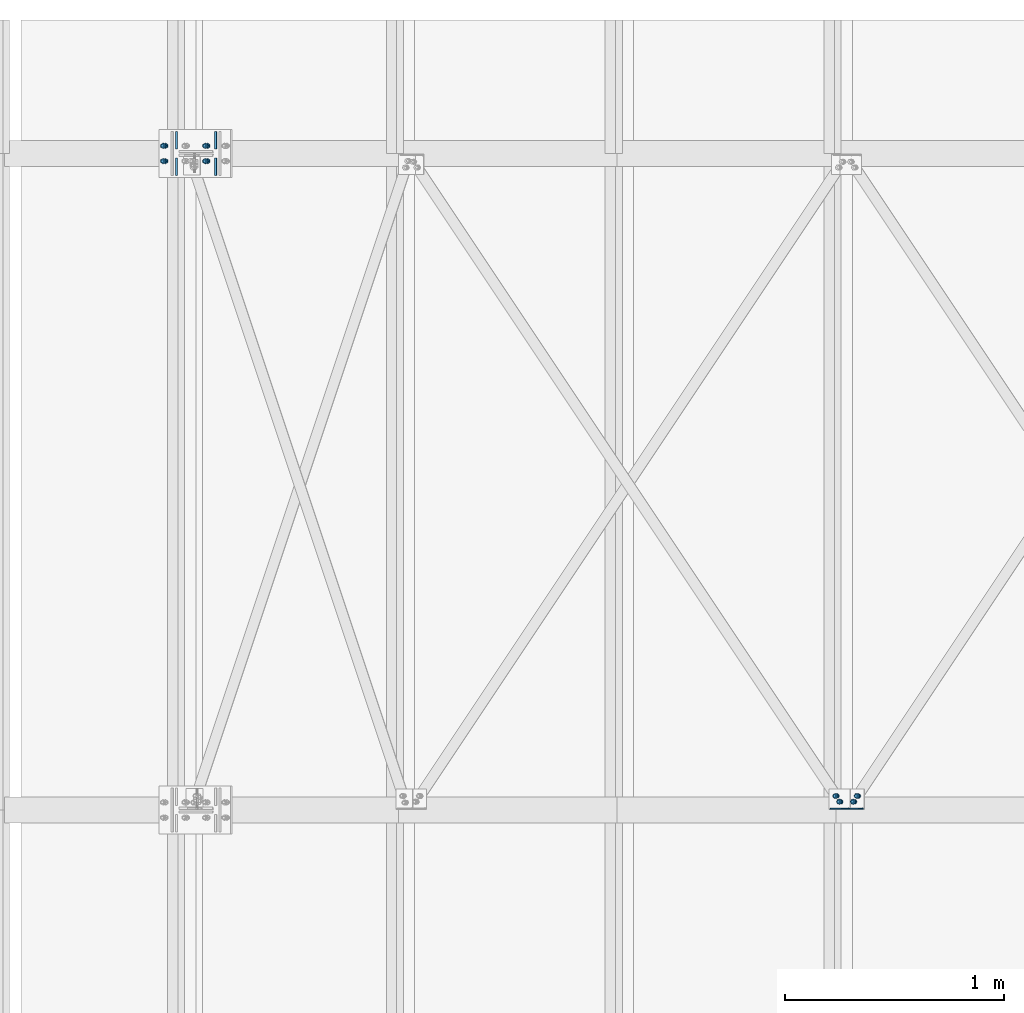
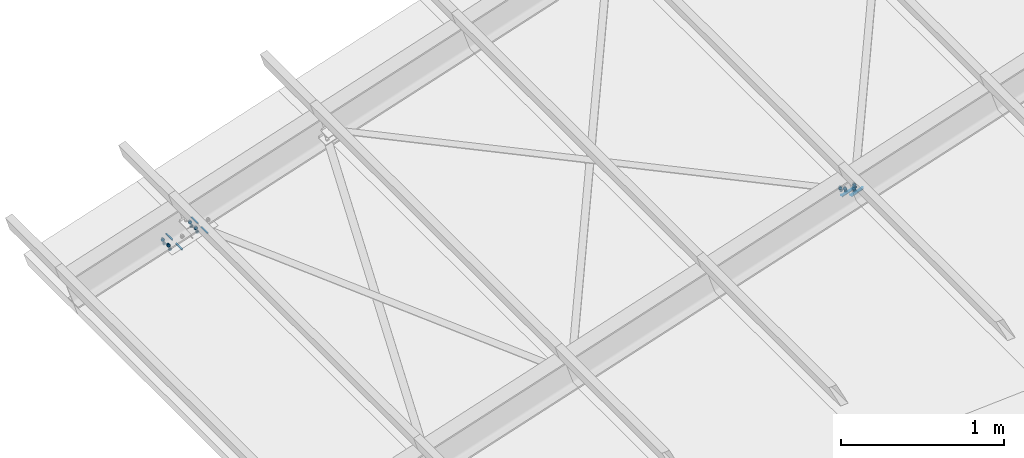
# One storey, part 37 of 53: 32 mechanical fasteners, 12 fasteners.
"""IFC4 building model written with IfcOpenShell, lengths in metres."""

from ifc_helpers import new_model, si_unit, frame, origin_with_axes, place, context, project, spatial, polyline, outline, extrude, type_object, element, save


model = new_model("IFC4")

# Units and contexts
model_context = context("Model", 3, precision=1e-05, world=origin_with_axes())
ifc_project = project(units=[si_unit("LENGTHUNIT", "METRE"), si_unit("AREAUNIT", "SQUARE_METRE"), si_unit("VOLUMEUNIT", "CUBIC_METRE"), si_unit("MASSUNIT", "GRAM", prefix="KILO"), si_unit("TIMEUNIT", "SECOND"), si_unit("PLANEANGLEUNIT", "RADIAN"), si_unit("SOLIDANGLEUNIT", "STERADIAN"), si_unit("THERMODYNAMICTEMPERATUREUNIT", "DEGREE_CELSIUS")], contexts=[model_context])

# Site, building, storey
placement_1 = place(None, origin_with_axes())
site = spatial("IfcSite", under=ifc_project, at=placement_1, Name="Italia", CompositionType="ELEMENT")
building = spatial("IfcBuilding", under=site, at=placement_1, Name="Capannone", CompositionType="ELEMENT")
storey_placement = place(None, frame((0.0, 0.0, 5.550000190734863), z_axis=(0.0, 0.0, 1.0), x_axis=(1.0, 0.0, 0.0)))
storey = spatial("IfcBuildingStorey", under=building, at=storey_placement, Name="Storey 1", CompositionType="ELEMENT", Elevation=5.550000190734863)

# Mechanical fasteners
mechanical_fastener_type_1 = type_object("IfcMechanicalFastenerType", Name="Collegamento -1087_-1057", PredefinedType="BOLT")
placement_2 = place(placement_1, origin_with_axes())
mechanical_fastener_1_placement = place(placement_2, origin_with_axes())
element("IfcMechanicalFastener", 1, at=mechanical_fastener_1_placement, inside=storey, type_object=mechanical_fastener_type_1, Name="Collegamento -1087_-1057", NominalDiameter=0.0119996, context=model_context, shape_type="SweptSolid", body=[
    extrude(outline(polyline([(0.0, 0.0), (-0.00982285, 0.00689268), (-0.0207043, 0.00183201), (-0.0217619, -0.0101209), (-0.011939, -0.017014), (-0.00105858, -0.0119534), (0.0, 0.0)])), frame((2.94909, 12.0488, 6.62161), z_axis=(0.312164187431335, 0.0, -0.95002818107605), x_axis=(0.0, 1.0, 0.0)), (0.0, 0.0, 1.0), 0.0095997),
])
mechanical_fastener_type_2 = type_object("IfcMechanicalFastenerType", Name="Collegamento -1087_-1057", PredefinedType="BOLT")
mechanical_fastener_2_placement = place(placement_2, origin_with_axes())
element("IfcMechanicalFastener", 2, at=mechanical_fastener_2_placement, inside=storey, type_object=mechanical_fastener_type_2, Name="Collegamento -1087_-1057", NominalDiameter=0.012, context=model_context, shape_type="SweptSolid", body=[
    extrude(outline(polyline([(0.0, 0.0), (-0.000204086, -0.00155258), (-0.000802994, -0.00299978), (-0.00175667, -0.0042429), (-0.00299931, -0.00519562), (-0.00444698, -0.00579548), (-0.00599957, -0.00599957), (-0.00755215, -0.00579548), (-0.00899982, -0.00519562), (-0.0102425, -0.0042429), (-0.0111961, -0.00299978), (-0.011795, -0.00155258), (-0.0119991, 0.0), (-0.011795, 0.00155354), (-0.0111961, 0.00300026), (-0.0102425, 0.0042429), (-0.00899982, 0.00519609), (-0.00755215, 0.00579548), (-0.00599957, 0.00600004), (-0.00444698, 0.00579548), (-0.00299931, 0.00519609), (-0.00175667, 0.0042429), (-0.000802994, 0.00300026), (-0.000204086, 0.00155354), (0.0, 0.0)])), frame((2.93554, 12.0439, 6.64664), z_axis=(0.312142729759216, 0.0, -0.950035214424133), x_axis=(0.0, 1.0, 0.0)), (0.0, 0.0, 1.0), 0.0279998),
])
mechanical_fastener_type_3 = type_object("IfcMechanicalFastenerType", Name="Collegamento -1087_-1057", PredefinedType="BOLT")
mechanical_fastener_3_placement = place(placement_2, origin_with_axes())
element("IfcMechanicalFastener", 3, at=mechanical_fastener_3_placement, inside=storey, type_object=mechanical_fastener_type_3, Name="Collegamento -1087_-1057", NominalDiameter=0.0119996, context=model_context, shape_type="SweptSolid", body=[
    extrude(outline(polyline([(0.0, 0.0), (-0.00982285, 0.00689316), (-0.0207043, 0.00183249), (-0.0217619, -0.0101204), (-0.011939, -0.0170135), (-0.00105858, -0.0119534), (0.0, 0.0)])), frame((2.94235, 12.0488, 6.64214), z_axis=(0.312164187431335, 0.0, -0.95002818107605), x_axis=(0.0, 1.0, 0.0)), (0.0, 0.0, 1.0), 0.0095997),
])
mechanical_fastener_type_4 = type_object("IfcMechanicalFastenerType", Name="Collegamento -1087_-1057", PredefinedType="BOLT")
mechanical_fastener_4_placement = place(placement_2, origin_with_axes())
element("IfcMechanicalFastener", 4, at=mechanical_fastener_4_placement, inside=storey, type_object=mechanical_fastener_type_4, Name="Collegamento -1087_-1057", NominalDiameter=0.024, context=model_context, shape_type="SweptSolid", body=[
    extrude(outline(polyline([(0.0, 0.0), (-0.000409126, -0.00310516), (-0.00160789, -0.00599957), (-0.00351524, -0.00848484), (-0.00600052, -0.0103922), (-0.00889397, -0.011591), (-0.0120001, -0.0119991), (-0.0151062, -0.011591), (-0.0179996, -0.0103922), (-0.0204849, -0.00848484), (-0.0223923, -0.00599957), (-0.023591, -0.00310516), (-0.0240002, 0.0), (-0.023591, 0.00310612), (-0.0223923, 0.00600052), (-0.0204849, 0.00848579), (-0.0179996, 0.0103931), (-0.0151062, 0.0115919), (-0.0120001, 0.0120001), (-0.00889397, 0.0115919), (-0.00600052, 0.0103931), (-0.00351524, 0.00848579), (-0.00160789, 0.00600052), (-0.000409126, 0.00310612), (0.0, 0.0)])), frame((2.94054, 12.0499, 6.63144), z_axis=(0.31214714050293, 0.0, -0.950033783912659), x_axis=(0.0, 1.0, 0.0)), (0.0, 0.0, 1.0), 0.00199963),
])
mechanical_fastener_type_5 = type_object("IfcMechanicalFastenerType", Name="Collegamento -1087_-1057", PredefinedType="BOLT")
mechanical_fastener_5_placement = place(placement_2, origin_with_axes())
element("IfcMechanicalFastener", 5, at=mechanical_fastener_5_placement, inside=storey, type_object=mechanical_fastener_type_5, Name="Collegamento -1087_-1057", NominalDiameter=0.0119997, context=model_context, shape_type="SweptSolid", body=[
    extrude(outline(polyline([(0.0, 0.0), (-0.00982285, 0.00689268), (-0.0207033, 0.00183249), (-0.0217619, -0.0101209), (-0.011939, -0.0170135), (-0.00105762, -0.0119534), (0.0, 0.0)])), frame((2.93163, 12.075, 6.61588), z_axis=(0.312164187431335, 0.0, -0.95002818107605), x_axis=(0.0, 1.0, 0.0)), (0.0, 0.0, 1.0), 0.0095997),
])
mechanical_fastener_type_6 = type_object("IfcMechanicalFastenerType", Name="Collegamento -1087_-1057", PredefinedType="BOLT")
mechanical_fastener_6_placement = place(placement_2, origin_with_axes())
element("IfcMechanicalFastener", 6, at=mechanical_fastener_6_placement, inside=storey, type_object=mechanical_fastener_type_6, Name="Collegamento -1087_-1057", NominalDiameter=0.012, context=model_context, shape_type="SweptSolid", body=[
    extrude(outline(polyline([(0.0, 0.0), (-0.000204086, -0.00155258), (-0.000802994, -0.00299978), (-0.00175667, -0.0042429), (-0.00299931, -0.00519562), (-0.00444698, -0.00579548), (-0.00599957, -0.00599957), (-0.00755215, -0.00579548), (-0.00899982, -0.00519562), (-0.0102425, -0.0042429), (-0.0111961, -0.00299978), (-0.011795, -0.00155258), (-0.0119991, 0.0), (-0.011795, 0.00155306), (-0.0111961, 0.00300026), (-0.0102425, 0.0042429), (-0.00899982, 0.00519609), (-0.00755215, 0.00579548), (-0.00599957, 0.00600004), (-0.00444698, 0.00579548), (-0.00299931, 0.00519609), (-0.00175667, 0.0042429), (-0.000802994, 0.00300026), (-0.000204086, 0.00155306), (0.0, 0.0)])), frame((2.91808, 12.0701, 6.6409), z_axis=(0.312142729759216, 0.0, -0.950035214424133), x_axis=(0.0, 1.0, 0.0)), (0.0, 0.0, 1.0), 0.0279998),
])
mechanical_fastener_type_7 = type_object("IfcMechanicalFastenerType", Name="Collegamento -1087_-1057", PredefinedType="BOLT")
mechanical_fastener_7_placement = place(placement_2, origin_with_axes())
element("IfcMechanicalFastener", 7, at=mechanical_fastener_7_placement, inside=storey, type_object=mechanical_fastener_type_7, Name="Collegamento -1087_-1057", NominalDiameter=0.0119997, context=model_context, shape_type="SweptSolid", body=[
    extrude(outline(polyline([(0.0, 0.0), (-0.00982285, 0.00689268), (-0.0207033, 0.00183249), (-0.0217619, -0.0101209), (-0.011939, -0.0170135), (-0.00105762, -0.0119534), (0.0, 0.0)])), frame((2.92488, 12.075, 6.6364), z_axis=(0.312164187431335, 0.0, -0.95002818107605), x_axis=(0.0, 1.0, 0.0)), (0.0, 0.0, 1.0), 0.0095997),
])
mechanical_fastener_type_8 = type_object("IfcMechanicalFastenerType", Name="Collegamento -1087_-1057", PredefinedType="BOLT")
mechanical_fastener_8_placement = place(placement_2, origin_with_axes())
element("IfcMechanicalFastener", 8, at=mechanical_fastener_8_placement, inside=storey, type_object=mechanical_fastener_type_8, Name="Collegamento -1087_-1057", NominalDiameter=0.024, context=model_context, shape_type="SweptSolid", body=[
    extrude(outline(polyline([(0.0, 0.0), (-0.000409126, -0.00310516), (-0.00160789, -0.00599957), (-0.00351524, -0.00848484), (-0.00600052, -0.0103922), (-0.00889397, -0.011591), (-0.0120001, -0.0119996), (-0.0151062, -0.011591), (-0.0179996, -0.0103922), (-0.0204849, -0.00848484), (-0.0223923, -0.00599957), (-0.023591, -0.00310516), (-0.0240002, 0.0), (-0.023591, 0.00310612), (-0.0223923, 0.00600052), (-0.0204849, 0.00848579), (-0.0179996, 0.0103927), (-0.0151062, 0.0115919), (-0.0120001, 0.0120001), (-0.00889397, 0.0115919), (-0.00600052, 0.0103927), (-0.00351524, 0.00848579), (-0.00160789, 0.00600052), (-0.000409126, 0.00310612), (0.0, 0.0)])), frame((2.92307, 12.0761, 6.6257), z_axis=(0.312076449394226, 0.0, -0.950056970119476), x_axis=(0.0, 1.0, 0.0)), (0.0, 0.0, 1.0), 0.00200009),
])

# Fasteners
fastener_type_1 = type_object("IfcFastenerType", Name="Collegamento -1087_-1057", PredefinedType="WELD")
fastener_1_placement = place(placement_2, origin_with_axes())
element("IfcFastener", 9, at=fastener_1_placement, inside=storey, type_object=fastener_type_1, Name="Collegamento -1087_-1057", context=model_context, shape_type="SweptSolid", body=[
    extrude(outline(polyline([(0.0, 0.0), (0.00717258, -0.00695848), (0.0, -0.00695848), (0.0, 0.0)])), frame((2.89662, 12.0031, 6.62217), z_axis=(0.950031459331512, 0.0, 0.312154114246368), x_axis=(0.0, 1.0, 0.0)), (0.0, 0.0, 1.0), 0.0880995),
])
fastener_type_2 = type_object("IfcFastenerType", Name="Collegamento -1087_-1057", PredefinedType="WELD")
fastener_2_placement = place(placement_2, origin_with_axes())
element("IfcFastener", 10, at=fastener_2_placement, inside=storey, type_object=fastener_type_2, Name="Collegamento -1087_-1057", context=model_context, shape_type="SweptSolid", body=[
    extrude(outline(polyline([(0.0, 0.0), (-0.00717258, 0.00695801), (0.0, 0.00695801), (0.0, 0.0)])), frame((2.98619, 12.0031, 6.6318), z_axis=(-0.950031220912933, 0.0, -0.31215500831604), x_axis=(0.0, -1.0, 0.0)), (0.0, 0.0, 1.0), 0.0881008),
])

# Mechanical fasteners
mechanical_fastener_type_9 = type_object("IfcMechanicalFastenerType", Name="Collegamento -1087_-1121", PredefinedType="BOLT")
mechanical_fastener_9_placement = place(placement_2, origin_with_axes())
element("IfcMechanicalFastener", 11, at=mechanical_fastener_9_placement, inside=storey, type_object=mechanical_fastener_type_9, Name="Collegamento -1087_-1121", NominalDiameter=0.0119996, context=model_context, shape_type="SweptSolid", body=[
    extrude(outline(polyline([(0.0, 0.0), (-0.00982285, -0.00689316), (-0.00876427, -0.0188465), (0.0021162, -0.0239067), (0.011939, -0.0170135), (0.0108814, -0.0050602), (0.0, 0.0)])), frame((3.01869, 12.0369, 6.60238), z_axis=(0.312149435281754, 0.0, -0.950033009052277), x_axis=(0.0, 1.0, 0.0)), (0.0, 0.0, 1.0), 0.00960016),
])
mechanical_fastener_type_10 = type_object("IfcMechanicalFastenerType", Name="Collegamento -1087_-1121", PredefinedType="BOLT")
mechanical_fastener_10_placement = place(placement_2, origin_with_axes())
element("IfcMechanicalFastener", 12, at=mechanical_fastener_10_placement, inside=storey, type_object=mechanical_fastener_type_10, Name="Collegamento -1087_-1121", NominalDiameter=0.012, context=model_context, shape_type="SweptSolid", body=[
    extrude(outline(polyline([(0.0, 0.0), (-0.000204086, -0.00155258), (-0.000802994, -0.00299931), (-0.00175667, -0.00424194), (-0.00299931, -0.00519562), (-0.00444698, -0.00579548), (-0.00599957, -0.00599957), (-0.00755215, -0.00579548), (-0.00899982, -0.00519562), (-0.0102425, -0.00424194), (-0.0111961, -0.00299931), (-0.011795, -0.00155258), (-0.0119991, 0.0), (-0.011795, 0.00155354), (-0.0111961, 0.00300026), (-0.0102425, 0.0042429), (-0.00899982, 0.00519657), (-0.00755215, 0.00579596), (-0.00599957, 0.00600052), (-0.00444698, 0.00579596), (-0.00299931, 0.00519657), (-0.00175667, 0.0042429), (-0.000802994, 0.00300026), (-0.000204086, 0.00155354), (0.0, 0.0)])), frame((2.99859, 12.0439, 6.62525), z_axis=(0.312153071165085, 0.0, -0.950031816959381), x_axis=(0.0, 1.0, 0.0)), (0.0, 0.0, 1.0), 0.0280004),
])
mechanical_fastener_type_11 = type_object("IfcMechanicalFastenerType", Name="Collegamento -1087_-1121", PredefinedType="BOLT")
mechanical_fastener_11_placement = place(placement_2, origin_with_axes())
element("IfcMechanicalFastener", 13, at=mechanical_fastener_11_placement, inside=storey, type_object=mechanical_fastener_type_11, Name="Collegamento -1087_-1121", NominalDiameter=0.0119996, context=model_context, shape_type="SweptSolid", body=[
    extrude(outline(polyline([(0.0, 0.0), (-0.00982285, -0.00689316), (-0.00876427, -0.0188465), (0.0021162, -0.0239067), (0.011939, -0.0170135), (0.0108814, -0.0050602), (0.0, 0.0)])), frame((3.01195, 12.0369, 6.6229), z_axis=(0.312149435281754, 0.0, -0.950033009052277), x_axis=(0.0, 1.0, 0.0)), (0.0, 0.0, 1.0), 0.00960016),
])
mechanical_fastener_type_12 = type_object("IfcMechanicalFastenerType", Name="Collegamento -1087_-1121", PredefinedType="BOLT")
mechanical_fastener_12_placement = place(placement_2, origin_with_axes())
element("IfcMechanicalFastener", 14, at=mechanical_fastener_12_placement, inside=storey, type_object=mechanical_fastener_type_12, Name="Collegamento -1087_-1121", NominalDiameter=0.024, context=model_context, shape_type="SweptSolid", body=[
    extrude(outline(polyline([(0.0, 0.0), (-0.000409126, -0.00310564), (-0.00160789, -0.00600004), (-0.00351524, -0.00848532), (-0.00600052, -0.0103922), (-0.00889397, -0.0115914), (-0.0120001, -0.0120001), (-0.0151062, -0.0115914), (-0.0179996, -0.0103922), (-0.0204849, -0.00848532), (-0.0223923, -0.00600004), (-0.023591, -0.00310564), (-0.0240002, 0.0), (-0.023591, 0.00310564), (-0.0223923, 0.00600004), (-0.0204849, 0.00848532), (-0.0179996, 0.0103922), (-0.0151062, 0.0115914), (-0.0120001, 0.0119996), (-0.00889397, 0.0115914), (-0.00600052, 0.0103922), (-0.00351524, 0.00848532), (-0.00160789, 0.00600004), (-0.000409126, 0.00310564), (0.0, 0.0)])), frame((3.00359, 12.0499, 6.61005), z_axis=(0.312076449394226, 0.0, -0.950056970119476), x_axis=(0.0, 1.0, 0.0)), (0.0, 0.0, 1.0), 0.00200009),
])
mechanical_fastener_type_13 = type_object("IfcMechanicalFastenerType", Name="Collegamento -1087_-1121", PredefinedType="BOLT")
mechanical_fastener_13_placement = place(placement_2, origin_with_axes())
element("IfcMechanicalFastener", 15, at=mechanical_fastener_13_placement, inside=storey, type_object=mechanical_fastener_type_13, Name="Collegamento -1087_-1121", NominalDiameter=0.0119997, context=model_context, shape_type="SweptSolid", body=[
    extrude(outline(polyline([(0.0, 0.0), (-0.00982285, -0.00689316), (-0.00876522, -0.0188465), (0.0021162, -0.0239067), (0.011939, -0.0170135), (0.0108805, -0.0050602), (0.0, 0.0)])), frame((3.03615, 12.0631, 6.60812), z_axis=(0.312149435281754, 0.0, -0.950033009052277), x_axis=(0.0, 1.0, 0.0)), (0.0, 0.0, 1.0), 0.00960016),
])
mechanical_fastener_type_14 = type_object("IfcMechanicalFastenerType", Name="Collegamento -1087_-1121", PredefinedType="BOLT")
mechanical_fastener_14_placement = place(placement_2, origin_with_axes())
element("IfcMechanicalFastener", 16, at=mechanical_fastener_14_placement, inside=storey, type_object=mechanical_fastener_type_14, Name="Collegamento -1087_-1121", NominalDiameter=0.012, context=model_context, shape_type="SweptSolid", body=[
    extrude(outline(polyline([(0.0, 0.0), (-0.000204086, -0.00155306), (-0.000802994, -0.00299978), (-0.00175667, -0.00424242), (-0.00299931, -0.00519609), (-0.00444698, -0.00579548), (-0.00599957, -0.00600004), (-0.00755215, -0.00579548), (-0.00899982, -0.00519609), (-0.0102425, -0.00424242), (-0.0111961, -0.00299978), (-0.011795, -0.00155306), (-0.0119991, 0.0), (-0.011795, 0.00155306), (-0.0111961, 0.00300026), (-0.0102425, 0.00424242), (-0.00899982, 0.00519609), (-0.00755215, 0.00579596), (-0.00599957, 0.00600004), (-0.00444698, 0.00579596), (-0.00299931, 0.00519609), (-0.00175667, 0.00424242), (-0.000802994, 0.00300026), (-0.000204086, 0.00155306), (0.0, 0.0)])), frame((3.01606, 12.0701, 6.63099), z_axis=(0.312158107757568, 0.0, -0.950030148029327), x_axis=(0.0, 1.0, 0.0)), (0.0, 0.0, 1.0), 0.028),
])
mechanical_fastener_type_15 = type_object("IfcMechanicalFastenerType", Name="Collegamento -1087_-1121", PredefinedType="BOLT")
mechanical_fastener_15_placement = place(placement_2, origin_with_axes())
element("IfcMechanicalFastener", 17, at=mechanical_fastener_15_placement, inside=storey, type_object=mechanical_fastener_type_15, Name="Collegamento -1087_-1121", NominalDiameter=0.0119997, context=model_context, shape_type="SweptSolid", body=[
    extrude(outline(polyline([(0.0, 0.0), (-0.00982285, -0.00689316), (-0.00876522, -0.0188465), (0.0021162, -0.0239067), (0.011939, -0.0170135), (0.0108805, -0.0050602), (0.0, 0.0)])), frame((3.02941, 12.0631, 6.62864), z_axis=(0.312149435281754, 0.0, -0.950033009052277), x_axis=(0.0, 1.0, 0.0)), (0.0, 0.0, 1.0), 0.00960016),
])
mechanical_fastener_type_16 = type_object("IfcMechanicalFastenerType", Name="Collegamento -1087_-1121", PredefinedType="BOLT")
mechanical_fastener_16_placement = place(placement_2, origin_with_axes())
element("IfcMechanicalFastener", 18, at=mechanical_fastener_16_placement, inside=storey, type_object=mechanical_fastener_type_16, Name="Collegamento -1087_-1121", NominalDiameter=0.024, context=model_context, shape_type="SweptSolid", body=[
    extrude(outline(polyline([(0.0, 0.0), (-0.000409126, -0.00310564), (-0.00160789, -0.00599957), (-0.00351524, -0.00848484), (-0.00600052, -0.0103922), (-0.00889397, -0.011591), (-0.0120001, -0.0119996), (-0.0151062, -0.011591), (-0.0179996, -0.0103922), (-0.0204849, -0.00848484), (-0.0223923, -0.00599957), (-0.023591, -0.00310564), (-0.0240002, 0.0), (-0.023591, 0.00310612), (-0.0223923, 0.00600052), (-0.0204849, 0.00848579), (-0.0179996, 0.0103922), (-0.0151062, 0.011591), (-0.0120001, 0.0120001), (-0.00889397, 0.011591), (-0.00600052, 0.0103922), (-0.00351524, 0.00848579), (-0.00160789, 0.00600052), (-0.000409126, 0.00310612), (0.0, 0.0)])), frame((3.02105, 12.0761, 6.61579), z_axis=(0.312362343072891, 0.0, -0.94996303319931), x_axis=(0.0, 1.0, 0.0)), (0.0, 0.0, 1.0), 0.00199978),
])

# Fasteners
fastener_type_3 = type_object("IfcFastenerType", Name="Collegamento -1087_-1121", PredefinedType="WELD")
fastener_3_placement = place(placement_2, origin_with_axes())
element("IfcFastener", 19, at=fastener_3_placement, inside=storey, type_object=fastener_type_3, Name="Collegamento -1087_-1121", context=model_context, shape_type="SweptSolid", body=[
    extrude(outline(polyline([(0.0, 0.0), (0.00717258, -0.00695753), (0.0, -0.00695753), (0.0, 0.0)])), frame((2.96074, 12.0031, 6.60114), z_axis=(0.950031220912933, 0.0, 0.312154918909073), x_axis=(0.0, 1.0, 0.0)), (0.0, 0.0, 1.0), 0.0880993),
])
fastener_type_4 = type_object("IfcFastenerType", Name="Collegamento -1087_-1121", PredefinedType="WELD")
fastener_4_placement = place(placement_2, origin_with_axes())
element("IfcFastener", 20, at=fastener_4_placement, inside=storey, type_object=fastener_type_4, Name="Collegamento -1087_-1121", context=model_context, shape_type="SweptSolid", body=[
    extrude(outline(polyline([(0.0, 0.0), (-0.00717258, 0.00695801), (0.0, 0.00695801), (0.0, 0.0)])), frame((3.05031, 12.0031, 6.61076), z_axis=(-0.95003068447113, 0.0, -0.312156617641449), x_axis=(0.0, -1.0, 0.0)), (0.0, 0.0, 1.0), 0.0881004),
])
fastener_type_5 = type_object("IfcFastenerType", Name="Collegamenti 0101_0001 0103_0003 0105_0005 0107_0007 0109_0009 0111_0011", PredefinedType="WELD")
fastener_5_placement = place(placement_2, origin_with_axes())
element("IfcFastener", 21, at=fastener_5_placement, inside=storey, type_object=fastener_type_5, Name="Collegamenti 0101_0001 0103_0003 0105_0005 0107_0007 0109_0009 0111_0011", context=model_context, shape_type="SweptSolid", body=[
    extrude(outline(polyline([(0.0, 0.0), (-0.00619942, -0.0127454), (-0.00937507, -0.00308037), (0.0, 0.0)])), frame((-0.0846885, 15.1, 5.50644), z_axis=(0.0, -1.0, 0.0), x_axis=(1.0, 0.0, 0.0)), (0.0, 0.0, 1.0), 0.0785999),
])
fastener_type_6 = type_object("IfcFastenerType", Name="Collegamenti 0101_0001 0103_0003 0105_0005 0107_0007 0109_0009 0111_0011", PredefinedType="WELD")
fastener_6_placement = place(placement_2, origin_with_axes())
element("IfcFastener", 22, at=fastener_6_placement, inside=storey, type_object=fastener_type_6, Name="Collegamenti 0101_0001 0103_0003 0105_0005 0107_0007 0109_0009 0111_0011", context=model_context, shape_type="SweptSolid", body=[
    extrude(outline(polyline([(0.0, 0.0), (-0.0125507, -0.00658464), (-0.00937507, 0.00308037), (0.0, 0.0)])), frame((0.0846564, 15.0215, 5.56208), z_axis=(0.0, 1.0, 0.0), x_axis=(-1.0, 0.0, 0.0)), (0.0, 0.0, 1.0), 0.0785999),
])
fastener_type_7 = type_object("IfcFastenerType", Name="Collegamenti 0101_0001 0103_0003 0105_0005 0107_0007 0109_0009 0111_0011", PredefinedType="WELD")
fastener_7_placement = place(placement_2, origin_with_axes())
element("IfcFastener", 23, at=fastener_7_placement, inside=storey, type_object=fastener_type_7, Name="Collegamenti 0101_0001 0103_0003 0105_0005 0107_0007 0109_0009 0111_0011", context=model_context, shape_type="SweptSolid", body=[
    extrude(outline(polyline([(0.0, 0.0), (-0.0125507, -0.00658464), (-0.00937507, 0.00308037), (0.0, 0.0)])), frame((0.0846564, 14.9, 5.56208), z_axis=(0.0, 1.0, 0.0), x_axis=(-1.0, 0.0, 0.0)), (0.0, 0.0, 1.0), 0.0785999),
])
fastener_type_8 = type_object("IfcFastenerType", Name="Collegamenti 0101_0001 0103_0003 0105_0005 0107_0007 0109_0009 0111_0011", PredefinedType="WELD")
fastener_8_placement = place(placement_2, origin_with_axes())
element("IfcFastener", 24, at=fastener_8_placement, inside=storey, type_object=fastener_type_8, Name="Collegamenti 0101_0001 0103_0003 0105_0005 0107_0007 0109_0009 0111_0011", context=model_context, shape_type="SweptSolid", body=[
    extrude(outline(polyline([(0.0, 0.0), (-0.00619942, -0.0127454), (-0.00937507, -0.00308037), (0.0, 0.0)])), frame((-0.0846885, 14.9785, 5.50644), z_axis=(0.0, -1.0, 0.0), x_axis=(1.0, 0.0, 0.0)), (0.0, 0.0, 1.0), 0.0785999),
])
fastener_type_9 = type_object("IfcFastenerType", Name="Collegamenti 0101_0001 0103_0003 0105_0005 0107_0007 0109_0009 0111_0011", PredefinedType="WELD")
fastener_9_placement = place(placement_2, origin_with_axes())
element("IfcFastener", 25, at=fastener_9_placement, inside=storey, type_object=fastener_type_9, Name="Collegamenti 0101_0001 0103_0003 0105_0005 0107_0007 0109_0009 0111_0011", context=model_context, shape_type="SweptSolid", body=[
    extrude(outline(polyline([(0.0, 0.0), (-0.00619942, -0.0127454), (-0.00937507, -0.00308037), (0.0, 0.0)])), frame((-0.0846885, 15.1, 5.50644), z_axis=(0.0, -1.0, 0.0), x_axis=(1.0, 0.0, 0.0)), (0.0, 0.0, 1.0), 0.0785999),
])
fastener_type_10 = type_object("IfcFastenerType", Name="Collegamenti 0101_0001 0103_0003 0105_0005 0107_0007 0109_0009 0111_0011", PredefinedType="WELD")
fastener_10_placement = place(placement_2, origin_with_axes())
element("IfcFastener", 26, at=fastener_10_placement, inside=storey, type_object=fastener_type_10, Name="Collegamenti 0101_0001 0103_0003 0105_0005 0107_0007 0109_0009 0111_0011", context=model_context, shape_type="SweptSolid", body=[
    extrude(outline(polyline([(0.0, 0.0), (-0.0125507, -0.00658464), (-0.00937507, 0.00308037), (0.0, 0.0)])), frame((0.0846564, 15.0215, 5.56208), z_axis=(0.0, 1.0, 0.0), x_axis=(-1.0, 0.0, 0.0)), (0.0, 0.0, 1.0), 0.0785999),
])
fastener_type_11 = type_object("IfcFastenerType", Name="Collegamenti 0101_0001 0103_0003 0105_0005 0107_0007 0109_0009 0111_0011", PredefinedType="WELD")
fastener_11_placement = place(placement_2, origin_with_axes())
element("IfcFastener", 27, at=fastener_11_placement, inside=storey, type_object=fastener_type_11, Name="Collegamenti 0101_0001 0103_0003 0105_0005 0107_0007 0109_0009 0111_0011", context=model_context, shape_type="SweptSolid", body=[
    extrude(outline(polyline([(0.0, 0.0), (-0.0125507, -0.00658464), (-0.00937507, 0.00308037), (0.0, 0.0)])), frame((0.0846564, 14.9, 5.56208), z_axis=(0.0, 1.0, 0.0), x_axis=(-1.0, 0.0, 0.0)), (0.0, 0.0, 1.0), 0.0785999),
])
fastener_type_12 = type_object("IfcFastenerType", Name="Collegamenti 0101_0001 0103_0003 0105_0005 0107_0007 0109_0009 0111_0011", PredefinedType="WELD")
fastener_12_placement = place(placement_2, origin_with_axes())
element("IfcFastener", 28, at=fastener_12_placement, inside=storey, type_object=fastener_type_12, Name="Collegamenti 0101_0001 0103_0003 0105_0005 0107_0007 0109_0009 0111_0011", context=model_context, shape_type="SweptSolid", body=[
    extrude(outline(polyline([(0.0, 0.0), (-0.00619942, -0.0127454), (-0.00937507, -0.00308037), (0.0, 0.0)])), frame((-0.0846885, 14.9785, 5.50644), z_axis=(0.0, -1.0, 0.0), x_axis=(1.0, 0.0, 0.0)), (0.0, 0.0, 1.0), 0.0785999),
])

# Mechanical fasteners
mechanical_fastener_type_17 = type_object("IfcMechanicalFastenerType", Name="Collegamenti 0101_0001 0103_0003 0105_0005 0107_0007 0109_0009 0111_0011", PredefinedType="BOLT")
mechanical_fastener_17_placement = place(placement_2, origin_with_axes())
element("IfcMechanicalFastener", 29, at=mechanical_fastener_17_placement, inside=storey, type_object=mechanical_fastener_type_17, Name="Collegamenti 0101_0001 0103_0003 0105_0005 0107_0007 0109_0009 0111_0011", NominalDiameter=0.0119998, context=model_context, shape_type="SweptSolid", body=[
    extrude(outline(polyline([(0.0, 0.0), (0.0120001, 0.0), (0.0179996, -0.0103923), (0.0120001, -0.0207845), (0.0, -0.0207845), (-0.00600052, -0.0103923), (0.0, 0.0)])), frame((-0.130325, 15.029, 5.49139), z_axis=(0.312164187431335, 0.0, -0.95002818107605), x_axis=(0.0, 1.0, 0.0)), (0.0, 0.0, 1.0), 0.0095997),
])
mechanical_fastener_type_18 = type_object("IfcMechanicalFastenerType", Name="Collegamenti 0101_0001 0103_0003 0105_0005 0107_0007 0109_0009 0111_0011", PredefinedType="BOLT")
mechanical_fastener_18_placement = place(placement_2, origin_with_axes())
element("IfcMechanicalFastener", 30, at=mechanical_fastener_18_placement, inside=storey, type_object=mechanical_fastener_type_18, Name="Collegamenti 0101_0001 0103_0003 0105_0005 0107_0007 0109_0009 0111_0011", NominalDiameter=0.012, context=model_context, shape_type="SweptSolid", body=[
    extrude(outline(polyline([(0.0, 0.0), (-0.000204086, -0.00155306), (-0.000802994, -0.00300002), (-0.00175667, -0.00424254), (-0.00299931, -0.00519633), (-0.00444698, -0.0057956), (-0.00599957, -0.00600004), (-0.00755215, -0.0057956), (-0.00899982, -0.00519633), (-0.0102425, -0.00424254), (-0.0111961, -0.00300002), (-0.011795, -0.00155306), (-0.0119991, 0.0), (-0.011795, 0.00155294), (-0.0111961, 0.00300002), (-0.0102425, 0.00424254), (-0.00899982, 0.00519621), (-0.00755215, 0.00579548), (-0.00599957, 0.00600004), (-0.00444698, 0.00579548), (-0.00299931, 0.00519621), (-0.00175667, 0.00424254), (-0.000802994, 0.00300002), (-0.000204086, 0.00155294), (0.0, 0.0)])), frame((-0.153558, 15.041, 5.52881), z_axis=(0.312153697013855, 0.0, -0.950031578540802), x_axis=(0.0, 1.0, 0.0)), (0.0, 0.0, 1.0), 0.0428),
])
mechanical_fastener_type_19 = type_object("IfcMechanicalFastenerType", Name="Collegamenti 0101_0001 0103_0003 0105_0005 0107_0007 0109_0009 0111_0011", PredefinedType="BOLT")
mechanical_fastener_19_placement = place(placement_2, origin_with_axes())
element("IfcMechanicalFastener", 31, at=mechanical_fastener_19_placement, inside=storey, type_object=mechanical_fastener_type_19, Name="Collegamenti 0101_0001 0103_0003 0105_0005 0107_0007 0109_0009 0111_0011", NominalDiameter=0.0119998, context=model_context, shape_type="SweptSolid", body=[
    extrude(outline(polyline([(0.0, 0.0), (0.0120001, 0.0), (0.0179996, -0.0103924), (0.0120001, -0.0207846), (0.0, -0.0207846), (-0.00600052, -0.0103924), (0.0, 0.0)])), frame((-0.141687, 15.029, 5.52597), z_axis=(0.312164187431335, 0.0, -0.95002818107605), x_axis=(0.0, 1.0, 0.0)), (0.0, 0.0, 1.0), 0.0095997),
])
mechanical_fastener_type_20 = type_object("IfcMechanicalFastenerType", Name="Collegamenti 0101_0001 0103_0003 0105_0005 0107_0007 0109_0009 0111_0011", PredefinedType="BOLT")
mechanical_fastener_20_placement = place(placement_2, origin_with_axes())
element("IfcMechanicalFastener", 32, at=mechanical_fastener_20_placement, inside=storey, type_object=mechanical_fastener_type_20, Name="Collegamenti 0101_0001 0103_0003 0105_0005 0107_0007 0109_0009 0111_0011", NominalDiameter=0.024, context=model_context, shape_type="SweptSolid", body=[
    extrude(outline(polyline([(0.0, 0.0), (-0.000409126, -0.00310576), (-0.00160789, -0.00599992), (-0.00351524, -0.0084852), (-0.00600052, -0.0103922), (-0.00889397, -0.0115911), (-0.0120001, -0.0119998), (-0.0151062, -0.0115911), (-0.0179996, -0.0103922), (-0.0204849, -0.0084852), (-0.0223923, -0.00599992), (-0.023591, -0.00310576), (-0.0240002, 0.0), (-0.023591, 0.003106), (-0.0223923, 0.00600016), (-0.0204849, 0.00848532), (-0.0179996, 0.0103924), (-0.0151062, 0.0115913), (-0.0120001, 0.0120001), (-0.00889397, 0.0115913), (-0.00600052, 0.0103924), (-0.00351524, 0.00848532), (-0.00160789, 0.00600016), (-0.000409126, 0.003106), (0.0, 0.0)])), frame((-0.148563, 15.047, 5.51361), z_axis=(0.312059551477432, 0.0, -0.95006251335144), x_axis=(0.0, 1.0, 0.0)), (0.0, 0.0, 1.0), 0.00200058),
])
mechanical_fastener_type_21 = type_object("IfcMechanicalFastenerType", Name="Collegamenti 0101_0001 0103_0003 0105_0005 0107_0007 0109_0009 0111_0011", PredefinedType="BOLT")
mechanical_fastener_21_placement = place(placement_2, origin_with_axes())
element("IfcMechanicalFastener", 33, at=mechanical_fastener_21_placement, inside=storey, type_object=mechanical_fastener_type_21, Name="Collegamenti 0101_0001 0103_0003 0105_0005 0107_0007 0109_0009 0111_0011", NominalDiameter=0.0119998, context=model_context, shape_type="SweptSolid", body=[
    extrude(outline(polyline([(0.0, 0.0), (0.0120001, 0.0), (0.0180006, -0.0103923), (0.0120001, -0.0207845), (0.0, -0.0207845), (-0.00599957, -0.0103923), (0.0, 0.0)])), frame((-0.130325, 14.959, 5.49139), z_axis=(0.312164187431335, 0.0, -0.95002818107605), x_axis=(0.0, 1.0, 0.0)), (0.0, 0.0, 1.0), 0.0095997),
])
mechanical_fastener_type_22 = type_object("IfcMechanicalFastenerType", Name="Collegamenti 0101_0001 0103_0003 0105_0005 0107_0007 0109_0009 0111_0011", PredefinedType="BOLT")
mechanical_fastener_22_placement = place(placement_2, origin_with_axes())
element("IfcMechanicalFastener", 34, at=mechanical_fastener_22_placement, inside=storey, type_object=mechanical_fastener_type_22, Name="Collegamenti 0101_0001 0103_0003 0105_0005 0107_0007 0109_0009 0111_0011", NominalDiameter=0.012, context=model_context, shape_type="SweptSolid", body=[
    extrude(outline(polyline([(0.0, 0.0), (-0.000204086, -0.00155306), (-0.000802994, -0.00300002), (-0.00175667, -0.00424254), (-0.00299931, -0.00519633), (-0.00444698, -0.0057956), (-0.00599957, -0.00600004), (-0.00755215, -0.0057956), (-0.00899982, -0.00519633), (-0.0102425, -0.00424254), (-0.0111961, -0.00300002), (-0.011795, -0.00155306), (-0.0119991, 0.0), (-0.011795, 0.00155294), (-0.0111961, 0.00300002), (-0.0102425, 0.00424254), (-0.00899982, 0.00519621), (-0.00755215, 0.00579548), (-0.00599957, 0.00600004), (-0.00444698, 0.00579548), (-0.00299931, 0.00519621), (-0.00175667, 0.00424254), (-0.000802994, 0.00300002), (-0.000204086, 0.00155294), (0.0, 0.0)])), frame((-0.153558, 14.971, 5.52881), z_axis=(0.312153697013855, 0.0, -0.950031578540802), x_axis=(0.0, 1.0, 0.0)), (0.0, 0.0, 1.0), 0.0428),
])
mechanical_fastener_type_23 = type_object("IfcMechanicalFastenerType", Name="Collegamenti 0101_0001 0103_0003 0105_0005 0107_0007 0109_0009 0111_0011", PredefinedType="BOLT")
mechanical_fastener_23_placement = place(placement_2, origin_with_axes())
element("IfcMechanicalFastener", 35, at=mechanical_fastener_23_placement, inside=storey, type_object=mechanical_fastener_type_23, Name="Collegamenti 0101_0001 0103_0003 0105_0005 0107_0007 0109_0009 0111_0011", NominalDiameter=0.0119998, context=model_context, shape_type="SweptSolid", body=[
    extrude(outline(polyline([(0.0, 0.0), (0.0120001, 0.0), (0.0180006, -0.0103924), (0.0120001, -0.0207846), (0.0, -0.0207846), (-0.00599957, -0.0103924), (0.0, 0.0)])), frame((-0.141687, 14.959, 5.52597), z_axis=(0.312164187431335, 0.0, -0.95002818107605), x_axis=(0.0, 1.0, 0.0)), (0.0, 0.0, 1.0), 0.0095997),
])
mechanical_fastener_type_24 = type_object("IfcMechanicalFastenerType", Name="Collegamenti 0101_0001 0103_0003 0105_0005 0107_0007 0109_0009 0111_0011", PredefinedType="BOLT")
mechanical_fastener_24_placement = place(placement_2, origin_with_axes())
element("IfcMechanicalFastener", 36, at=mechanical_fastener_24_placement, inside=storey, type_object=mechanical_fastener_type_24, Name="Collegamenti 0101_0001 0103_0003 0105_0005 0107_0007 0109_0009 0111_0011", NominalDiameter=0.024, context=model_context, shape_type="SweptSolid", body=[
    extrude(outline(polyline([(0.0, 0.0), (-0.000409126, -0.00310576), (-0.00160789, -0.00599992), (-0.00351524, -0.0084852), (-0.00600052, -0.0103922), (-0.00889397, -0.0115911), (-0.0120001, -0.0119998), (-0.0151062, -0.0115911), (-0.0179996, -0.0103922), (-0.0204849, -0.0084852), (-0.0223923, -0.00599992), (-0.023591, -0.00310576), (-0.0240002, 0.0), (-0.023591, 0.003106), (-0.0223923, 0.00600016), (-0.0204849, 0.00848532), (-0.0179996, 0.0103924), (-0.0151062, 0.0115913), (-0.0120001, 0.0120001), (-0.00889397, 0.0115913), (-0.00600052, 0.0103924), (-0.00351524, 0.00848532), (-0.00160789, 0.00600016), (-0.000409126, 0.003106), (0.0, 0.0)])), frame((-0.148563, 14.977, 5.51361), z_axis=(0.312059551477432, 0.0, -0.95006251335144), x_axis=(0.0, 1.0, 0.0)), (0.0, 0.0, 1.0), 0.00200058),
])
mechanical_fastener_type_25 = type_object("IfcMechanicalFastenerType", Name="Collegamenti 0101_0001 0103_0003 0105_0005 0107_0007 0109_0009 0111_0011", PredefinedType="BOLT")
mechanical_fastener_25_placement = place(placement_2, origin_with_axes())
element("IfcMechanicalFastener", 37, at=mechanical_fastener_25_placement, inside=storey, type_object=mechanical_fastener_type_25, Name="Collegamenti 0101_0001 0103_0003 0105_0005 0107_0007 0109_0009 0111_0011", NominalDiameter=0.0119998, context=model_context, shape_type="SweptSolid", body=[
    extrude(outline(polyline([(0.0, 0.0), (0.0120001, 0.0), (0.0179996, -0.0103924), (0.0120001, -0.0207846), (0.0, -0.0207846), (-0.00600052, -0.0103924), (0.0, 0.0)])), frame((0.0620569, 15.029, 5.5546), z_axis=(0.312162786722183, 0.0, -0.950028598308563), x_axis=(0.0, 1.0, 0.0)), (0.0, 0.0, 1.0), 0.0095997),
])
mechanical_fastener_type_26 = type_object("IfcMechanicalFastenerType", Name="Collegamenti 0101_0001 0103_0003 0105_0005 0107_0007 0109_0009 0111_0011", PredefinedType="BOLT")
mechanical_fastener_26_placement = place(placement_2, origin_with_axes())
element("IfcMechanicalFastener", 38, at=mechanical_fastener_26_placement, inside=storey, type_object=mechanical_fastener_type_26, Name="Collegamenti 0101_0001 0103_0003 0105_0005 0107_0007 0109_0009 0111_0011", NominalDiameter=0.012, context=model_context, shape_type="SweptSolid", body=[
    extrude(outline(polyline([(0.0, 0.0), (-0.000204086, -0.00155294), (-0.000802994, -0.0029999), (-0.00175667, -0.00424266), (-0.00299931, -0.00519621), (-0.00444698, -0.00579548), (-0.00599957, -0.00600004), (-0.00755215, -0.00579548), (-0.00899982, -0.00519621), (-0.0102425, -0.00424266), (-0.0111961, -0.0029999), (-0.011795, -0.00155294), (-0.0119991, 0.0), (-0.011795, 0.00155306), (-0.0111961, 0.00300002), (-0.0102425, 0.00424254), (-0.00899982, 0.00519621), (-0.00755215, 0.0057956), (-0.00599957, 0.00600004), (-0.00444698, 0.0057956), (-0.00299931, 0.00519621), (-0.00175667, 0.00424254), (-0.000802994, 0.00300002), (-0.000204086, 0.00155306), (0.0, 0.0)])), frame((0.0388237, 15.041, 5.59202), z_axis=(0.312154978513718, 0.0, -0.950031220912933), x_axis=(0.0, 1.0, 0.0)), (0.0, 0.0, 1.0), 0.0428),
])
mechanical_fastener_type_27 = type_object("IfcMechanicalFastenerType", Name="Collegamenti 0101_0001 0103_0003 0105_0005 0107_0007 0109_0009 0111_0011", PredefinedType="BOLT")
mechanical_fastener_27_placement = place(placement_2, origin_with_axes())
element("IfcMechanicalFastener", 39, at=mechanical_fastener_27_placement, inside=storey, type_object=mechanical_fastener_type_27, Name="Collegamenti 0101_0001 0103_0003 0105_0005 0107_0007 0109_0009 0111_0011", NominalDiameter=0.0119998, context=model_context, shape_type="SweptSolid", body=[
    extrude(outline(polyline([(0.0, 0.0), (0.0120001, 0.0), (0.0179996, -0.0103922), (0.0120001, -0.0207845), (0.0, -0.0207845), (-0.00600052, -0.0103922), (0.0, 0.0)])), frame((0.0506946, 15.029, 5.58918), z_axis=(0.312163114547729, 0.0, -0.950028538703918), x_axis=(0.0, 1.0, 0.0)), (0.0, 0.0, 1.0), 0.0095997),
])
mechanical_fastener_type_28 = type_object("IfcMechanicalFastenerType", Name="Collegamenti 0101_0001 0103_0003 0105_0005 0107_0007 0109_0009 0111_0011", PredefinedType="BOLT")
mechanical_fastener_28_placement = place(placement_2, origin_with_axes())
element("IfcMechanicalFastener", 40, at=mechanical_fastener_28_placement, inside=storey, type_object=mechanical_fastener_type_28, Name="Collegamenti 0101_0001 0103_0003 0105_0005 0107_0007 0109_0009 0111_0011", NominalDiameter=0.024, context=model_context, shape_type="SweptSolid", body=[
    extrude(outline(polyline([(0.0, 0.0), (-0.000409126, -0.003106), (-0.00160789, -0.00600004), (-0.00351524, -0.00848544), (-0.00600052, -0.0103923), (-0.00889397, -0.0115912), (-0.0120001, -0.0120001), (-0.0151062, -0.0115912), (-0.0179996, -0.0103923), (-0.0204849, -0.00848544), (-0.0223923, -0.00600004), (-0.023591, -0.003106), (-0.0240002, 0.0), (-0.023591, 0.00310588), (-0.0223923, 0.0059998), (-0.0204849, 0.0084852), (-0.0179996, 0.0103922), (-0.0151062, 0.011591), (-0.0120001, 0.012), (-0.00889397, 0.011591), (-0.00600052, 0.0103922), (-0.00351524, 0.0084852), (-0.00160789, 0.0059998), (-0.000409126, 0.00310588), (0.0, 0.0)])), frame((0.0438182, 15.047, 5.57682), z_axis=(0.312204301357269, 0.0, -0.950015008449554), x_axis=(0.0, 1.0, 0.0)), (0.0, 0.0, 1.0), 0.00199967),
])
mechanical_fastener_type_29 = type_object("IfcMechanicalFastenerType", Name="Collegamenti 0101_0001 0103_0003 0105_0005 0107_0007 0109_0009 0111_0011", PredefinedType="BOLT")
mechanical_fastener_29_placement = place(placement_2, origin_with_axes())
element("IfcMechanicalFastener", 41, at=mechanical_fastener_29_placement, inside=storey, type_object=mechanical_fastener_type_29, Name="Collegamenti 0101_0001 0103_0003 0105_0005 0107_0007 0109_0009 0111_0011", NominalDiameter=0.0119998, context=model_context, shape_type="SweptSolid", body=[
    extrude(outline(polyline([(0.0, 0.0), (0.0120001, 0.0), (0.0180006, -0.0103924), (0.0120001, -0.0207846), (0.0, -0.0207846), (-0.00599957, -0.0103924), (0.0, 0.0)])), frame((0.0620569, 14.959, 5.5546), z_axis=(0.312162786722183, 0.0, -0.950028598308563), x_axis=(0.0, 1.0, 0.0)), (0.0, 0.0, 1.0), 0.0095997),
])
mechanical_fastener_type_30 = type_object("IfcMechanicalFastenerType", Name="Collegamenti 0101_0001 0103_0003 0105_0005 0107_0007 0109_0009 0111_0011", PredefinedType="BOLT")
mechanical_fastener_30_placement = place(placement_2, origin_with_axes())
element("IfcMechanicalFastener", 42, at=mechanical_fastener_30_placement, inside=storey, type_object=mechanical_fastener_type_30, Name="Collegamenti 0101_0001 0103_0003 0105_0005 0107_0007 0109_0009 0111_0011", NominalDiameter=0.012, context=model_context, shape_type="SweptSolid", body=[
    extrude(outline(polyline([(0.0, 0.0), (-0.000204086, -0.00155294), (-0.000802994, -0.0029999), (-0.00175667, -0.00424266), (-0.00299931, -0.00519621), (-0.00444698, -0.00579548), (-0.00599957, -0.00600004), (-0.00755215, -0.00579548), (-0.00899982, -0.00519621), (-0.0102425, -0.00424266), (-0.0111961, -0.0029999), (-0.011795, -0.00155294), (-0.0119991, 0.0), (-0.011795, 0.00155306), (-0.0111961, 0.00300002), (-0.0102425, 0.00424254), (-0.00899982, 0.00519621), (-0.00755215, 0.0057956), (-0.00599957, 0.00600004), (-0.00444698, 0.0057956), (-0.00299931, 0.00519621), (-0.00175667, 0.00424254), (-0.000802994, 0.00300002), (-0.000204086, 0.00155306), (0.0, 0.0)])), frame((0.0388237, 14.971, 5.59202), z_axis=(0.312154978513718, 0.0, -0.950031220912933), x_axis=(0.0, 1.0, 0.0)), (0.0, 0.0, 1.0), 0.0428),
])
mechanical_fastener_type_31 = type_object("IfcMechanicalFastenerType", Name="Collegamenti 0101_0001 0103_0003 0105_0005 0107_0007 0109_0009 0111_0011", PredefinedType="BOLT")
mechanical_fastener_31_placement = place(placement_2, origin_with_axes())
element("IfcMechanicalFastener", 43, at=mechanical_fastener_31_placement, inside=storey, type_object=mechanical_fastener_type_31, Name="Collegamenti 0101_0001 0103_0003 0105_0005 0107_0007 0109_0009 0111_0011", NominalDiameter=0.0119998, context=model_context, shape_type="SweptSolid", body=[
    extrude(outline(polyline([(0.0, 0.0), (0.0120001, 0.0), (0.0180006, -0.0103922), (0.0120001, -0.0207845), (0.0, -0.0207845), (-0.00599957, -0.0103922), (0.0, 0.0)])), frame((0.0506946, 14.959, 5.58918), z_axis=(0.312163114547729, 0.0, -0.950028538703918), x_axis=(0.0, 1.0, 0.0)), (0.0, 0.0, 1.0), 0.0095997),
])
mechanical_fastener_type_32 = type_object("IfcMechanicalFastenerType", Name="Collegamenti 0101_0001 0103_0003 0105_0005 0107_0007 0109_0009 0111_0011", PredefinedType="BOLT")
mechanical_fastener_32_placement = place(placement_2, origin_with_axes())
element("IfcMechanicalFastener", 44, at=mechanical_fastener_32_placement, inside=storey, type_object=mechanical_fastener_type_32, Name="Collegamenti 0101_0001 0103_0003 0105_0005 0107_0007 0109_0009 0111_0011", NominalDiameter=0.024, context=model_context, shape_type="SweptSolid", body=[
    extrude(outline(polyline([(0.0, 0.0), (-0.000409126, -0.003106), (-0.00160789, -0.00600004), (-0.00351524, -0.00848544), (-0.00600052, -0.0103923), (-0.00889397, -0.0115912), (-0.0120001, -0.0120001), (-0.0151062, -0.0115912), (-0.0179996, -0.0103923), (-0.0204849, -0.00848544), (-0.0223923, -0.00600004), (-0.023591, -0.003106), (-0.0240002, 0.0), (-0.023591, 0.00310588), (-0.0223923, 0.0059998), (-0.0204849, 0.0084852), (-0.0179996, 0.0103922), (-0.0151062, 0.011591), (-0.0120001, 0.012), (-0.00889397, 0.011591), (-0.00600052, 0.0103922), (-0.00351524, 0.0084852), (-0.00160789, 0.0059998), (-0.000409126, 0.00310588), (0.0, 0.0)])), frame((0.0438182, 14.977, 5.57682), z_axis=(0.312204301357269, 0.0, -0.950015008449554), x_axis=(0.0, 1.0, 0.0)), (0.0, 0.0, 1.0), 0.00199967),
])

save(model, "model.ifc")
